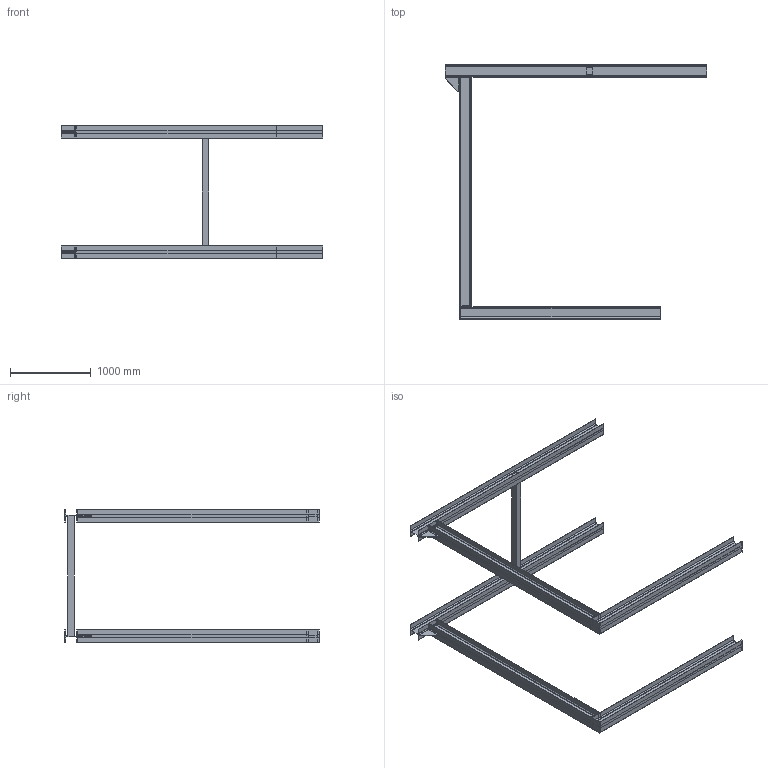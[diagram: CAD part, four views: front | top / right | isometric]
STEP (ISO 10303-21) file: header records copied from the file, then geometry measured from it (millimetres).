
FILE_DESCRIPTION((''),'2;1');
FILE_NAME('VORDACH','2020-04-03T',('pkloninger'),(''),'CREO PARAMETRIC BY PTC INC, 2017020','CREO PARAMETRIC BY PTC INC, 2017020','');
FILE_SCHEMA(('CONFIG_CONTROL_DESIGN'));
Length unit declared in the file: millimetre
Products named in the file (1): VORDACH
Bounding box: 3250 x 3152 x 1660 mm (x, y, z)
Volume: 77094329.3 mm3; surface area: 16192424.3 mm2
Topology: 1 solids, 1 shells, 196 faces, 500 edges, 312 vertices
Faces by surface type: plane 90, cylinder 78, bspline 24, sphere 4
Entity records: 6490 total; most frequent: CARTESIAN_POINT 1680, DIRECTION 1012, ORIENTED_EDGE 1000, EDGE_CURVE 500, AXIS2_PLACEMENT_3D 344, VECTOR 324, LINE 324, VERTEX_POINT 312
